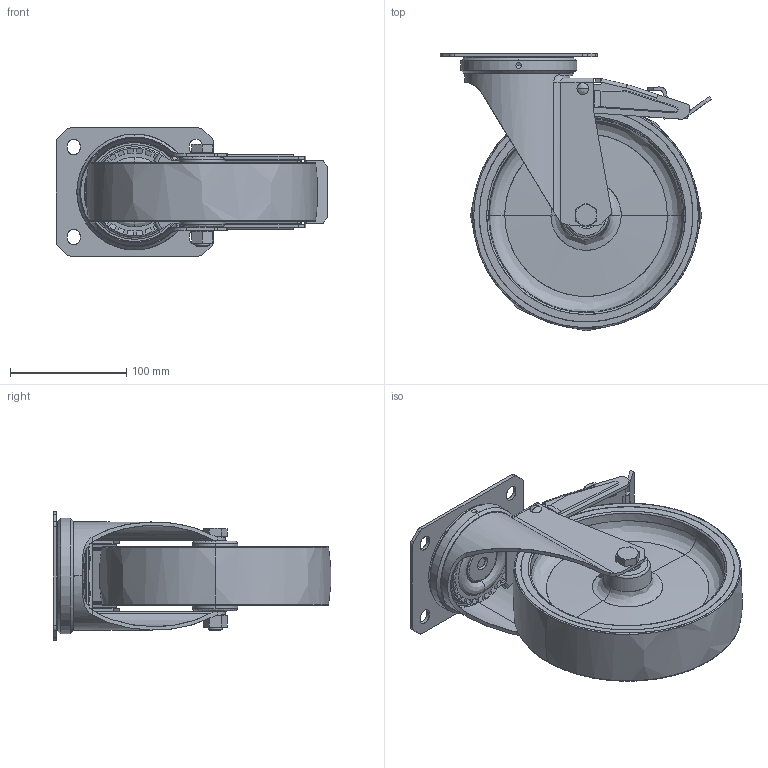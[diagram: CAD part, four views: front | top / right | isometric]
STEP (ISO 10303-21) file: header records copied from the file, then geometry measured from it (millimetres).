
FILE_DESCRIPTION(('STEP AP203'),'2;1');
FILE_NAME('21142FR_CL.stp','2010-06-29T16:39:06',(''),(''),'2009.1.108','THINKDESIGN','');
FILE_SCHEMA(('CONFIG_CONTROL_DESIGN'));
Bounding box: 233.3 x 238.38 x 110 mm (x, y, z)
Volume: 24422.4 mm3; surface area: 294842.5 mm2
Topology: 4 solids, 4 shells, 739 faces, 4853 edges, 4782 vertices
Faces by surface type: plane 321, bspline 209, cylinder 209
Full cylindrical faces by diameter (mm): 10.106 x1, 12 x1, 12.5 x1, 16.63 x1, 18 x1, 20 x1
Entity records: 47535 total; most frequent: CARTESIAN_POINT 26825, COMPOSITE_CURVE_SEGMENT 4678, DIRECTION 3912, TRIMMED_CURVE 2330, VECTOR 2028, LINE 2028, AXIS2_PLACEMENT_3D 942, B_SPLINE_CURVE_WITH_KNOTS 788
